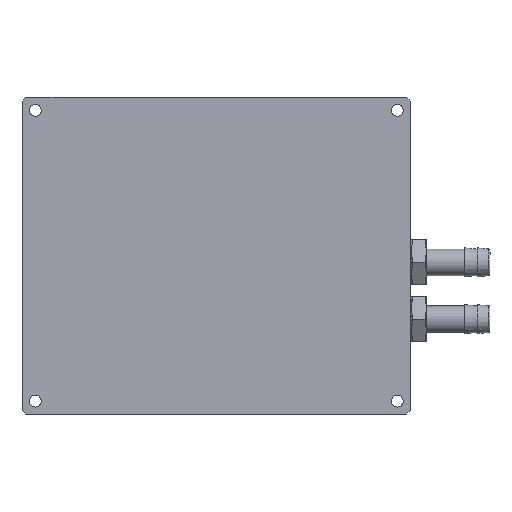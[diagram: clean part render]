
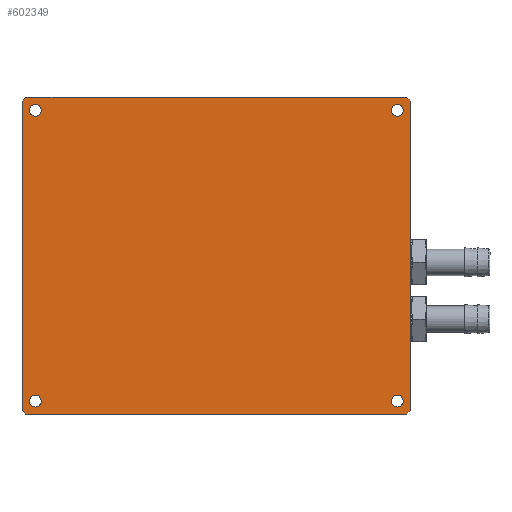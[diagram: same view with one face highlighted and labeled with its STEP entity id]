
A CAD part, front view. The second image highlights one B-rep face of the part: STEP entity #602349.
In plain terms, the highlighted planar face has unit normal (0, -1, 0) as drawn and (0, 0, -1) by its records, which use the part's own axes.
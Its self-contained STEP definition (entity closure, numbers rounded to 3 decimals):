
#4866 = EDGE_CURVE ( 'NONE', #773044, #773044, #462051, .T. ) ;
#18912 = VERTEX_POINT ( 'NONE', #135486 ) ;
#32190 = VERTEX_POINT ( 'NONE', #909480 ) ;
#38473 = CARTESIAN_POINT ( 'NONE',  ( 73.5, 60., 0. ) ) ;
#43442 = FACE_BOUND ( 'NONE', #70317, .T. ) ;
#48327 = CARTESIAN_POINT ( 'NONE',  ( 73.5, -58.5, 0. ) ) ;
#60445 = DIRECTION ( 'NONE',  ( 0.707, 0.707, 0. ) ) ;
#66423 = EDGE_CURVE ( 'NONE', #389703, #372196, #377458, .T. ) ;
#70317 = EDGE_LOOP ( 'NONE', ( #659561 ) ) ;
#73112 = CARTESIAN_POINT ( 'NONE',  ( 68.5, 55., 0. ) ) ;
#73787 = ORIENTED_EDGE ( 'NONE', *, *, #640574, .F. ) ;
#76601 = AXIS2_PLACEMENT_3D ( 'NONE', #848413, #631302, #192830 ) ;
#86410 = EDGE_CURVE ( 'NONE', #669893, #669893, #288024, .T. ) ;
#96789 = VERTEX_POINT ( 'NONE', #345211 ) ;
#97904 = VECTOR ( 'NONE', #927083, 1000. ) ;
#103824 = CIRCLE ( 'NONE', #749908, 2.25 ) ;
#120573 = FACE_BOUND ( 'NONE', #870772, .T. ) ;
#132789 = CARTESIAN_POINT ( 'NONE',  ( 72., 60., 0. ) ) ;
#134564 = VECTOR ( 'NONE', #642780, 1000. ) ;
#135486 = CARTESIAN_POINT ( 'NONE',  ( -72., -60., 0. ) ) ;
#151395 = EDGE_LOOP ( 'NONE', ( #681261, #366574, #452761, #371337, #295343, #580677, #73787, #482705 ) ) ;
#164680 = DIRECTION ( 'NONE',  ( 0., 0., 1. ) ) ;
#173276 = CARTESIAN_POINT ( 'NONE',  ( 70.75, -55., 0. ) ) ;
#178693 = FACE_BOUND ( 'NONE', #759365, .T. ) ;
#183702 = EDGE_CURVE ( 'NONE', #943699, #96789, #797884, .T. ) ;
#184232 = VECTOR ( 'NONE', #501069, 1000. ) ;
#190044 = VECTOR ( 'NONE', #917527, 1000. ) ;
#192830 = DIRECTION ( 'NONE',  ( 1., 0., 0. ) ) ;
#196594 = DIRECTION ( 'NONE',  ( 0., 0., 1. ) ) ;
#203350 = ORIENTED_EDGE ( 'NONE', *, *, #817211, .T. ) ;
#219914 = VERTEX_POINT ( 'NONE', #240026 ) ;
#224420 = CARTESIAN_POINT ( 'NONE',  ( -66.25, -55., 0. ) ) ;
#227348 = CARTESIAN_POINT ( 'NONE',  ( 73.5, 58.5, 0. ) ) ;
#240026 = CARTESIAN_POINT ( 'NONE',  ( 72., -60., 0. ) ) ;
#246743 = VECTOR ( 'NONE', #621542, 1000. ) ;
#257250 = CARTESIAN_POINT ( 'NONE',  ( -66.25, 55., 0. ) ) ;
#269377 = CARTESIAN_POINT ( 'NONE',  ( 73.5, -58.5, 0. ) ) ;
#272828 = AXIS2_PLACEMENT_3D ( 'NONE', #419990, #284933, #497025 ) ;
#282803 = CARTESIAN_POINT ( 'NONE',  ( -73.5, 58.5, 0. ) ) ;
#284933 = DIRECTION ( 'NONE',  ( 0., 0., 1. ) ) ;
#288024 = CIRCLE ( 'NONE', #272828, 2.25 ) ;
#290798 = LINE ( 'NONE', #936928, #134564 ) ;
#292978 = AXIS2_PLACEMENT_3D ( 'NONE', #504702, #196594, #576964 ) ;
#295343 = ORIENTED_EDGE ( 'NONE', *, *, #485732, .F. ) ;
#298802 = LINE ( 'NONE', #800360, #828403 ) ;
#300114 = ORIENTED_EDGE ( 'NONE', *, *, #4866, .T. ) ;
#301439 = VERTEX_POINT ( 'NONE', #224420 ) ;
#302252 = EDGE_CURVE ( 'NONE', #32190, #32190, #103824, .T. ) ;
#311414 = EDGE_CURVE ( 'NONE', #823770, #96789, #576421, .T. ) ;
#325232 = CARTESIAN_POINT ( 'NONE',  ( -73.5, 60., 0. ) ) ;
#345211 = CARTESIAN_POINT ( 'NONE',  ( -72., 60., 0. ) ) ;
#348940 = ORIENTED_EDGE ( 'NONE', *, *, #86410, .T. ) ;
#352869 = DIRECTION ( 'NONE',  ( 0., 0., 1. ) ) ;
#354394 = CARTESIAN_POINT ( 'NONE',  ( -73.5, 58.5, 0. ) ) ;
#360725 = EDGE_LOOP ( 'NONE', ( #300114 ) ) ;
#366574 = ORIENTED_EDGE ( 'NONE', *, *, #786654, .T. ) ;
#371337 = ORIENTED_EDGE ( 'NONE', *, *, #673249, .T. ) ;
#372196 = VERTEX_POINT ( 'NONE', #227348 ) ;
#377458 = LINE ( 'NONE', #38473, #246743 ) ;
#389703 = VERTEX_POINT ( 'NONE', #269377 ) ;
#401779 = LINE ( 'NONE', #695924, #97904 ) ;
#419990 = CARTESIAN_POINT ( 'NONE',  ( 68.5, -55., 0. ) ) ;
#438488 = DIRECTION ( 'NONE',  ( 1., 0., 0. ) ) ;
#452761 = ORIENTED_EDGE ( 'NONE', *, *, #66423, .F. ) ;
#457024 = DIRECTION ( 'NONE',  ( 1., 0., 0. ) ) ;
#462051 = CIRCLE ( 'NONE', #292978, 2.25 ) ;
#472373 = PLANE ( 'NONE',  #76601 ) ;
#482705 = ORIENTED_EDGE ( 'NONE', *, *, #183702, .T. ) ;
#485732 = EDGE_CURVE ( 'NONE', #18912, #219914, #298802, .T. ) ;
#497025 = DIRECTION ( 'NONE',  ( 1., 0., 0. ) ) ;
#501069 = DIRECTION ( 'NONE',  ( -0.707, -0.707, 0. ) ) ;
#504702 = CARTESIAN_POINT ( 'NONE',  ( -68.5, 55., 0. ) ) ;
#527791 = DIRECTION ( 'NONE',  ( -1., 0., 0. ) ) ;
#541673 = VECTOR ( 'NONE', #60445, 1000. ) ;
#576421 = LINE ( 'NONE', #325232, #817857 ) ;
#576964 = DIRECTION ( 'NONE',  ( 1., 0., 0. ) ) ;
#580677 = ORIENTED_EDGE ( 'NONE', *, *, #598971, .T. ) ;
#598971 = EDGE_CURVE ( 'NONE', #18912, #852572, #290798, .T. ) ;
#602349 = ADVANCED_FACE ( 'NONE', ( #925450, #178693, #120573, #43442, #694296 ), #472373, .F. ) ;
#621542 = DIRECTION ( 'NONE',  ( 0., 1., 0. ) ) ;
#629447 = AXIS2_PLACEMENT_3D ( 'NONE', #883137, #164680, #892623 ) ;
#631302 = DIRECTION ( 'NONE',  ( 0., 0., 1. ) ) ;
#640574 = EDGE_CURVE ( 'NONE', #943699, #852572, #908091, .T. ) ;
#642780 = DIRECTION ( 'NONE',  ( -0.707, 0.707, 0. ) ) ;
#659561 = ORIENTED_EDGE ( 'NONE', *, *, #302252, .T. ) ;
#669893 = VERTEX_POINT ( 'NONE', #173276 ) ;
#673249 = EDGE_CURVE ( 'NONE', #389703, #219914, #867585, .T. ) ;
#681261 = ORIENTED_EDGE ( 'NONE', *, *, #311414, .F. ) ;
#694296 = FACE_OUTER_BOUND ( 'NONE', #151395, .T. ) ;
#695924 = CARTESIAN_POINT ( 'NONE',  ( 72., 60., 0. ) ) ;
#749908 = AXIS2_PLACEMENT_3D ( 'NONE', #73112, #352869, #457024 ) ;
#759365 = EDGE_LOOP ( 'NONE', ( #203350 ) ) ;
#768009 = CIRCLE ( 'NONE', #629447, 2.25 ) ;
#773044 = VERTEX_POINT ( 'NONE', #257250 ) ;
#786654 = EDGE_CURVE ( 'NONE', #823770, #372196, #401779, .T. ) ;
#797884 = LINE ( 'NONE', #354394, #541673 ) ;
#800360 = CARTESIAN_POINT ( 'NONE',  ( -73.5, -60., 0. ) ) ;
#817211 = EDGE_CURVE ( 'NONE', #301439, #301439, #768009, .T. ) ;
#817857 = VECTOR ( 'NONE', #527791, 1000. ) ;
#823770 = VERTEX_POINT ( 'NONE', #132789 ) ;
#828403 = VECTOR ( 'NONE', #438488, 1000. ) ;
#848413 = CARTESIAN_POINT ( 'NONE',  ( 0., 0., 0. ) ) ;
#852572 = VERTEX_POINT ( 'NONE', #919886 ) ;
#867585 = LINE ( 'NONE', #48327, #184232 ) ;
#870772 = EDGE_LOOP ( 'NONE', ( #348940 ) ) ;
#883137 = CARTESIAN_POINT ( 'NONE',  ( -68.5, -55., 0. ) ) ;
#892623 = DIRECTION ( 'NONE',  ( 1., 0., 0. ) ) ;
#898581 = CARTESIAN_POINT ( 'NONE',  ( -73.5, 60., 0. ) ) ;
#908091 = LINE ( 'NONE', #898581, #190044 ) ;
#909480 = CARTESIAN_POINT ( 'NONE',  ( 70.75, 55., 0. ) ) ;
#917527 = DIRECTION ( 'NONE',  ( 0., -1., 0. ) ) ;
#919886 = CARTESIAN_POINT ( 'NONE',  ( -73.5, -58.5, 0. ) ) ;
#925450 = FACE_BOUND ( 'NONE', #360725, .T. ) ;
#927083 = DIRECTION ( 'NONE',  ( 0.707, -0.707, 0. ) ) ;
#936928 = CARTESIAN_POINT ( 'NONE',  ( -72., -60., 0. ) ) ;
#943699 = VERTEX_POINT ( 'NONE', #282803 ) ;
